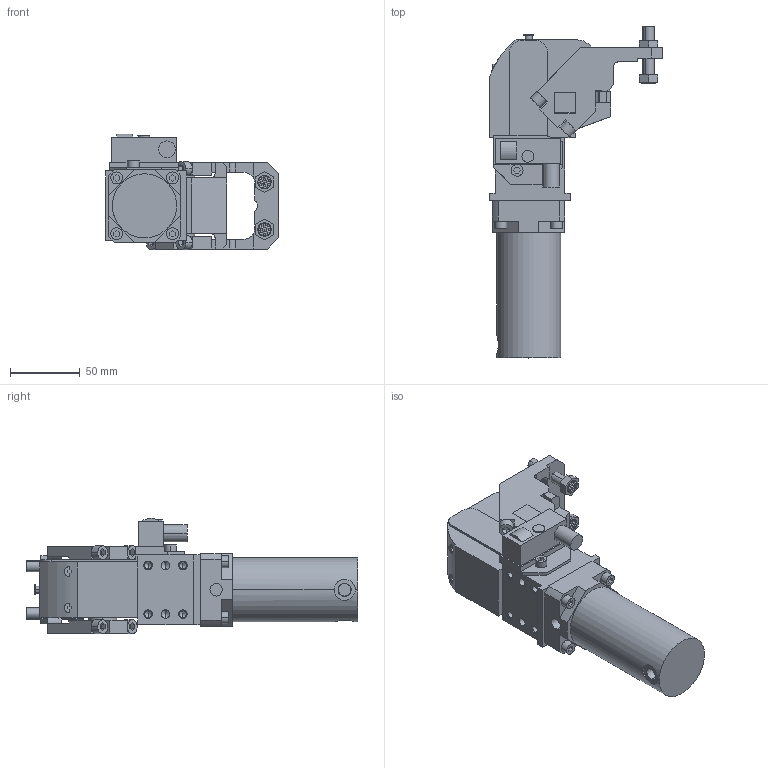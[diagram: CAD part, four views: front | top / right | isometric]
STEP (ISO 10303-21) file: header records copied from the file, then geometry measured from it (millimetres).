
FILE_DESCRIPTION (( 'STEP AP214' ), '1' );
FILE_NAME ('g40.1_g2__a.STEP', '2014-03-17T09:49:25', ( 'vep' ), ( 'TOSHIBA' ), 'SwSTEP 2.0', 'SolidWorks 2013', '' );
FILE_SCHEMA (( 'AUTOMOTIVE_DESIGN' ));
Length unit declared in the file: millimetre
Products named in the file (7): g40.1_leva_g2; blocchetto_p&f_90; g40.1_cilindro; g40.1_corpo; dado_basso_m8_din936_1_154; g40.1_g2__a; piedino_zigrinato_M8x35_3_329
Assembly tree (8 placements, depth 2):
  g40.1_g2__a
    g40.1_corpo
    g40.1_cilindro
    blocchetto_p&f_90
    g40.1_leva_g2
    piedino_zigrinato_M8x35_3_329  x2
    dado_basso_m8_din936_1_154  x2
Bounding box: 124 x 238 x 82.8 mm (x, y, z)
Volume: 600628.5 mm3; surface area: 94627.2 mm2
Topology: 8 solids, 8 shells, 716 faces, 1726 edges, 1085 vertices
Faces by surface type: plane 508, cylinder 156, cone 52
Entity records: 18045 total; most frequent: CARTESIAN_POINT 3253, DIRECTION 2846, ORIENTED_EDGE 2804, EDGE_CURVE 1402, VECTOR 1024, LINE 1024, AXIS2_PLACEMENT_3D 911, VERTEX_POINT 892
